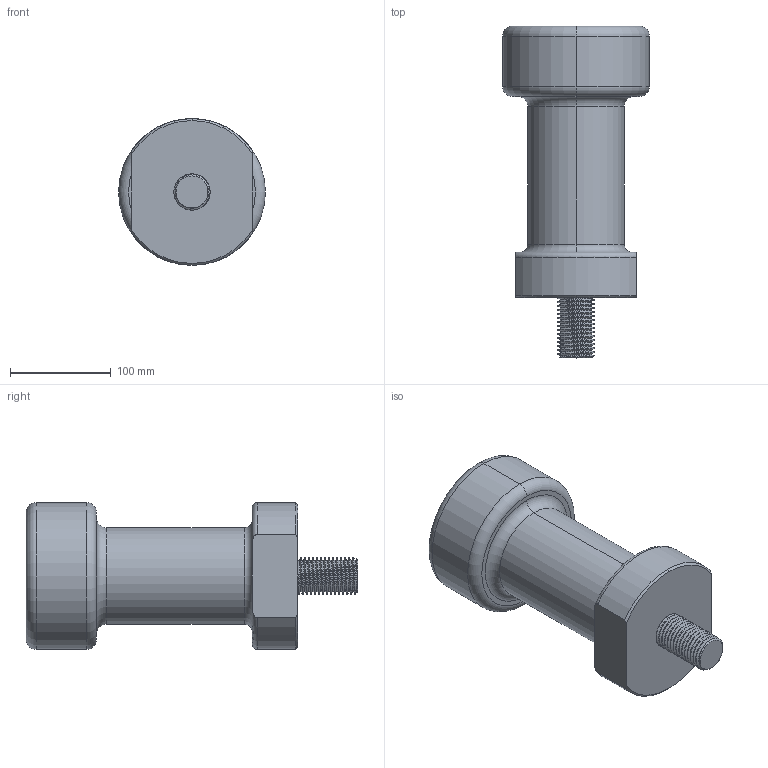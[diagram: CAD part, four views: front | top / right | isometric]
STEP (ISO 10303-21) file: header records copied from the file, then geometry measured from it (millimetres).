
FILE_DESCRIPTION (( 'STEP AP214' ), '1' );
FILE_NAME ('Plots_M36.STEP', '2022-03-14T16:29:49', ( '' ), ( '' ), 'SwSTEP 2.0', 'SolidWorks 2021', '' );
FILE_SCHEMA (( 'AUTOMOTIVE_DESIGN' ));
Length unit declared in the file: millimetre
Products named in the file (1): Plots_M36
Bounding box: 146 x 330 x 146 mm (x, y, z)
Volume: 3022875.8 mm3; surface area: 153880 mm2
Topology: 1 solids, 1 shells, 66 faces, 172 edges, 111 vertices
Faces by surface type: cylinder 37, torus 11, plane 8, cone 6, bspline 4
Entity records: 7818 total; most frequent: CARTESIAN_POINT 6368, ORIENTED_EDGE 344, DIRECTION 259, EDGE_CURVE 172, VERTEX_POINT 111, AXIS2_PLACEMENT_3D 107, EDGE_LOOP 69, FACE_OUTER_BOUND 66
